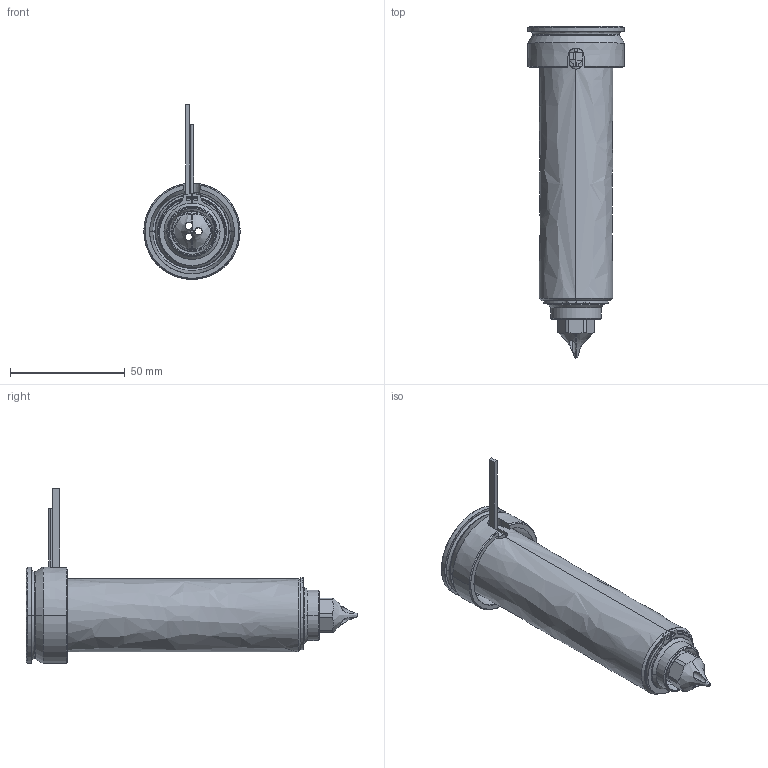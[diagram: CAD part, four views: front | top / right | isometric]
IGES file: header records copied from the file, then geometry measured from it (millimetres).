
Start section: SolidWorks IGES file using analytic representation for surfaces
Global section: file name: C:\Users\luca.EMPAD\Desktop\TEM\UGDL3614-S-A-1 [Øf=1.3 ØC=10].IGS; native system: SolidWorks 2012; preprocessor: SolidWorks 2012; author: luca; date: 120330.160553; units: millimetre
Bounding box: 42 x 144.8 x 76.3 mm (x, y, z)
Surface area: 46514.5 mm2 (no closed solid volume)
Topology: 0 solids, 0 shells, 125 faces, 2196 edges, 2196 vertices
Faces by surface type: revolution 81, bspline 44
